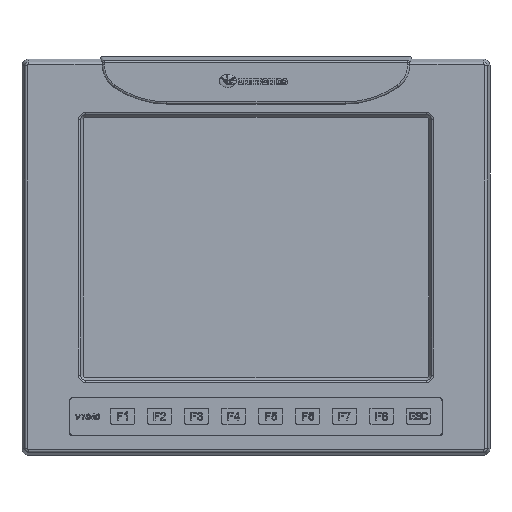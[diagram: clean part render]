
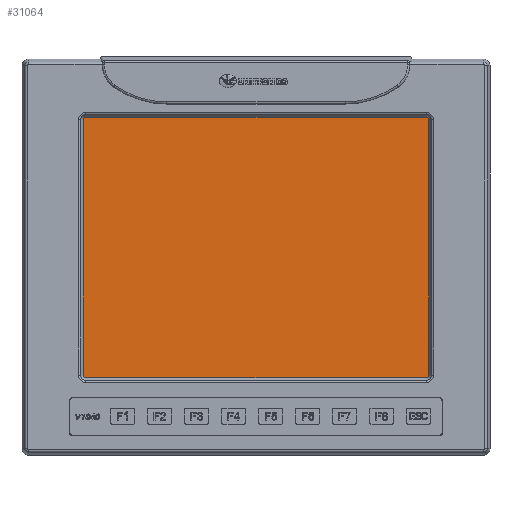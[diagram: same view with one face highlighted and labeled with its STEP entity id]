
A CAD part, top view. The second image highlights one B-rep face of the part: STEP entity #31064.
In plain terms, the highlighted planar face has unit normal (0, 0, 1).
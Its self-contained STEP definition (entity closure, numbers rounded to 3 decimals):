
#3256 = VECTOR ( 'NONE', #138685, 1000. ) ;
#11462 = EDGE_CURVE ( 'NONE', #81297, #151757, #176455, .T. ) ;
#14155 = DIRECTION ( 'NONE',  ( -1., 0., 0. ) ) ;
#16198 = VERTEX_POINT ( 'NONE', #97100 ) ;
#23412 = VERTEX_POINT ( 'NONE', #134697 ) ;
#27964 = CARTESIAN_POINT ( 'NONE',  ( 279.22, 9.737, 55.4 ) ) ;
#29659 = CARTESIAN_POINT ( 'NONE',  ( 39.5, 208.673, 55.4 ) ) ;
#31064 = ADVANCED_FACE ( 'NONE', ( #84935 ), #34542, .F. ) ;
#31730 = CIRCLE ( 'NONE', #107052, 1.673 ) ;
#34542 = PLANE ( 'NONE',  #202616 ) ;
#39249 = VERTEX_POINT ( 'NONE', #175337 ) ;
#40344 = CARTESIAN_POINT ( 'NONE',  ( 249.5, 49.5, 55.4 ) ) ;
#41103 = VERTEX_POINT ( 'NONE', #29659 ) ;
#41707 = EDGE_CURVE ( 'NONE', #133521, #16198, #174823, .T. ) ;
#42679 = CARTESIAN_POINT ( 'NONE',  ( 39.5, 207., 55.4 ) ) ;
#47132 = AXIS2_PLACEMENT_3D ( 'NONE', #210254, #177051, #14155 ) ;
#47271 = CARTESIAN_POINT ( 'NONE',  ( 37.827, 207., 55.4 ) ) ;
#55341 = DIRECTION ( 'NONE',  ( 0., 0., -1. ) ) ;
#59066 = DIRECTION ( 'NONE',  ( 0., -1., 0. ) ) ;
#67699 = EDGE_CURVE ( 'NONE', #151757, #133521, #31730, .T. ) ;
#73310 = CARTESIAN_POINT ( 'NONE',  ( 251.173, 49.5, 55.4 ) ) ;
#74772 = ORIENTED_EDGE ( 'NONE', *, *, #67699, .F. ) ;
#74871 = DIRECTION ( 'NONE',  ( 0., 0., -1. ) ) ;
#78961 = CARTESIAN_POINT ( 'NONE',  ( 39.5, 47.827, 55.4 ) ) ;
#79310 = CIRCLE ( 'NONE', #199073, 1.673 ) ;
#80303 = ORIENTED_EDGE ( 'NONE', *, *, #139706, .F. ) ;
#80479 = EDGE_LOOP ( 'NONE', ( #106219, #101218, #80303, #106975, #182005, #205484, #74772, #212174 ) ) ;
#81297 = VERTEX_POINT ( 'NONE', #159394 ) ;
#84935 = FACE_OUTER_BOUND ( 'NONE', #80479, .T. ) ;
#97100 = CARTESIAN_POINT ( 'NONE',  ( 37.827, 207., 55.4 ) ) ;
#101218 = ORIENTED_EDGE ( 'NONE', *, *, #167091, .F. ) ;
#104513 = CARTESIAN_POINT ( 'NONE',  ( 251.173, 207., 55.4 ) ) ;
#105756 = DIRECTION ( 'NONE',  ( -1., 0., 0. ) ) ;
#106120 = CARTESIAN_POINT ( 'NONE',  ( 39.5, 49.5, 55.4 ) ) ;
#106219 = ORIENTED_EDGE ( 'NONE', *, *, #180210, .F. ) ;
#106975 = ORIENTED_EDGE ( 'NONE', *, *, #175910, .F. ) ;
#107052 = AXIS2_PLACEMENT_3D ( 'NONE', #106120, #138253, #158534 ) ;
#115333 = CIRCLE ( 'NONE', #173416, 1.673 ) ;
#123645 = LINE ( 'NONE', #73310, #3256 ) ;
#124200 = LINE ( 'NONE', #207733, #174145 ) ;
#125079 = DIRECTION ( 'NONE',  ( -1., 0., 0. ) ) ;
#127321 = DIRECTION ( 'NONE',  ( -1., 0., 0. ) ) ;
#133331 = VECTOR ( 'NONE', #175899, 1000. ) ;
#133521 = VERTEX_POINT ( 'NONE', #207193 ) ;
#134697 = CARTESIAN_POINT ( 'NONE',  ( 251.173, 49.5, 55.4 ) ) ;
#138253 = DIRECTION ( 'NONE',  ( 0., 0., -1. ) ) ;
#138685 = DIRECTION ( 'NONE',  ( 0., -1., 0. ) ) ;
#139706 = EDGE_CURVE ( 'NONE', #39249, #161960, #183877, .T. ) ;
#151757 = VERTEX_POINT ( 'NONE', #193076 ) ;
#156612 = DIRECTION ( 'NONE',  ( 0., 0., -1. ) ) ;
#158534 = DIRECTION ( 'NONE',  ( -1., 0., 0. ) ) ;
#159394 = CARTESIAN_POINT ( 'NONE',  ( 249.5, 47.827, 55.4 ) ) ;
#161960 = VERTEX_POINT ( 'NONE', #104513 ) ;
#167091 = EDGE_CURVE ( 'NONE', #161960, #23412, #123645, .T. ) ;
#171734 = VECTOR ( 'NONE', #125079, 1000. ) ;
#173416 = AXIS2_PLACEMENT_3D ( 'NONE', #42679, #74871, #127321 ) ;
#174145 = VECTOR ( 'NONE', #204579, 1000. ) ;
#174823 = LINE ( 'NONE', #47271, #133331 ) ;
#175337 = CARTESIAN_POINT ( 'NONE',  ( 249.5, 208.673, 55.4 ) ) ;
#175899 = DIRECTION ( 'NONE',  ( 0., 1., 0. ) ) ;
#175910 = EDGE_CURVE ( 'NONE', #41103, #39249, #124200, .T. ) ;
#176455 = LINE ( 'NONE', #78961, #171734 ) ;
#177051 = DIRECTION ( 'NONE',  ( 0., 0., -1. ) ) ;
#180210 = EDGE_CURVE ( 'NONE', #23412, #81297, #79310, .T. ) ;
#182005 = ORIENTED_EDGE ( 'NONE', *, *, #190016, .F. ) ;
#183877 = CIRCLE ( 'NONE', #47132, 1.673 ) ;
#190016 = EDGE_CURVE ( 'NONE', #16198, #41103, #115333, .T. ) ;
#193076 = CARTESIAN_POINT ( 'NONE',  ( 39.5, 47.827, 55.4 ) ) ;
#199073 = AXIS2_PLACEMENT_3D ( 'NONE', #40344, #55341, #105756 ) ;
#202616 = AXIS2_PLACEMENT_3D ( 'NONE', #27964, #156612, #59066 ) ;
#204579 = DIRECTION ( 'NONE',  ( 1., 0., 0. ) ) ;
#205484 = ORIENTED_EDGE ( 'NONE', *, *, #41707, .F. ) ;
#207193 = CARTESIAN_POINT ( 'NONE',  ( 37.827, 49.5, 55.4 ) ) ;
#207733 = CARTESIAN_POINT ( 'NONE',  ( 249.5, 208.673, 55.4 ) ) ;
#210254 = CARTESIAN_POINT ( 'NONE',  ( 249.5, 207., 55.4 ) ) ;
#212174 = ORIENTED_EDGE ( 'NONE', *, *, #11462, .F. ) ;
